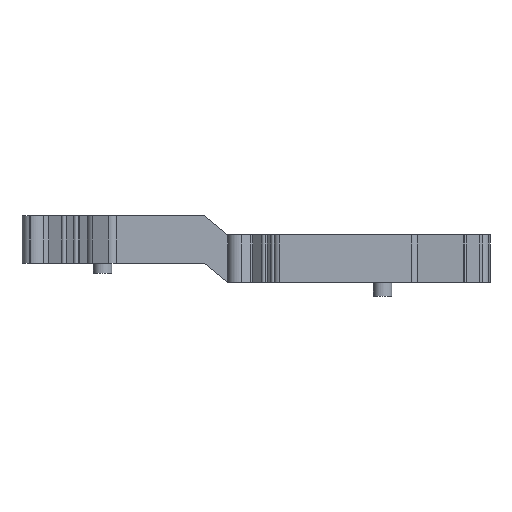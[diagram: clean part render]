
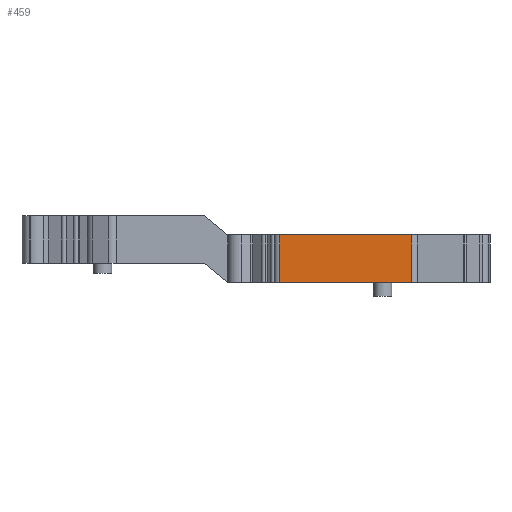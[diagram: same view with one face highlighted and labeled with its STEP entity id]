
A CAD part, left-side view. The second image highlights one B-rep face of the part: STEP entity #459.
In plain terms, the highlighted planar face has unit normal (-1, 0, 0).
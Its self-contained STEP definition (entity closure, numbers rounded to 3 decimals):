
#268=FACE_OUTER_BOUND('',#1703,.T.);
#459=ADVANCED_FACE('',(#268),#635,.F.);
#635=PLANE('',#4224);
#960=LINE('',#6176,#1384);
#961=LINE('',#6180,#1385);
#962=LINE('',#6182,#1386);
#963=LINE('',#6184,#1387);
#1384=VECTOR('',#4986,1.);
#1385=VECTOR('',#4991,1.);
#1386=VECTOR('',#4992,1.);
#1387=VECTOR('',#4993,1.);
#1703=EDGE_LOOP('',(#2260,#2261,#2262,#2263));
#2260=ORIENTED_EDGE('',*,*,#3678,.T.);
#2261=ORIENTED_EDGE('',*,*,#3680,.T.);
#2262=ORIENTED_EDGE('',*,*,#3681,.F.);
#2263=ORIENTED_EDGE('',*,*,#3682,.T.);
#3208=VERTEX_POINT('',#6175);
#3209=VERTEX_POINT('',#6177);
#3210=VERTEX_POINT('',#6181);
#3211=VERTEX_POINT('',#6183);
#3678=EDGE_CURVE('',#3209,#3208,#960,.T.);
#3680=EDGE_CURVE('',#3208,#3210,#961,.T.);
#3681=EDGE_CURVE('',#3211,#3210,#962,.T.);
#3682=EDGE_CURVE('',#3211,#3209,#963,.T.);
#4224=AXIS2_PLACEMENT_3D('',#6185,#4994,#4995);
#4986=DIRECTION('',(0.,0.,1.));
#4991=DIRECTION('',(0.,1.,0.));
#4992=DIRECTION('',(0.,0.,1.));
#4993=DIRECTION('',(0.,-1.,0.));
#4994=DIRECTION('',(1.,0.,0.));
#4995=DIRECTION('',(0.,0.,-1.));
#6175=CARTESIAN_POINT('',(0.,0.,0.));
#6176=CARTESIAN_POINT('',(0.,0.,-33.));
#6177=CARTESIAN_POINT('',(0.,0.,-6.2));
#6180=CARTESIAN_POINT('',(0.,0.,0.));
#6181=CARTESIAN_POINT('',(0.,17.212,0.));
#6182=CARTESIAN_POINT('',(0.,17.212,-33.));
#6183=CARTESIAN_POINT('',(0.,17.212,-6.2));
#6184=CARTESIAN_POINT('',(0.,0.,-6.2));
#6185=CARTESIAN_POINT('',(0.,0.,-33.));
